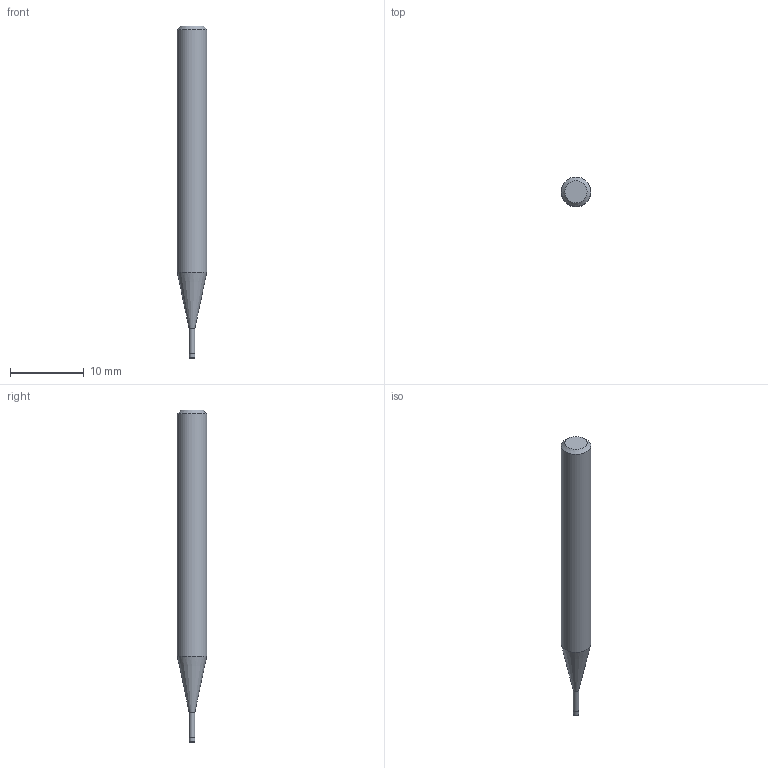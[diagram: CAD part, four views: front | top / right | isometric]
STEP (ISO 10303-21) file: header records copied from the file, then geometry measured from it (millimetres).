
FILE_DESCRIPTION((''),'2;1');
FILE_NAME('C:\Users\nsx150\AppData\Local\Temp\Mastercam 2021\17T8Q8S9EB\TEMP.step','2021-04-21T14:32:12',(''),(''),'STEP Write','Mastercam 2021 ... CNC Software, Inc.','');
FILE_SCHEMA(('AUTOMOTIVE_DESIGN'));
Length unit declared in the file: millimetre
Products named in the file (1): None
Bounding box: 4 x 4 x 45 mm (x, y, z)
Volume: 459 mm3; surface area: 497.3 mm2
Topology: 2 solids, 2 shells, 10 faces, 14 edges, 8 vertices
Faces by surface type: plane 4, cylinder 3, cone 2, torus 1
Full cylindrical faces by diameter (mm): 0.76 x1, 0.8 x1, 4 x1
Entity records: 232 total; most frequent: DIRECTION 40, CARTESIAN_POINT 28, AXIS2_PLACEMENT_3D 20, ORIENTED_EDGE 16, EDGE_LOOP 16, STYLED_ITEM 13, ADVANCED_FACE 10, FACE_BOUND 10
